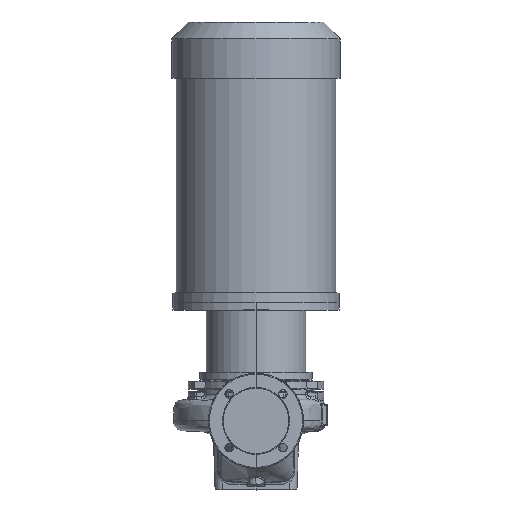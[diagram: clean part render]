
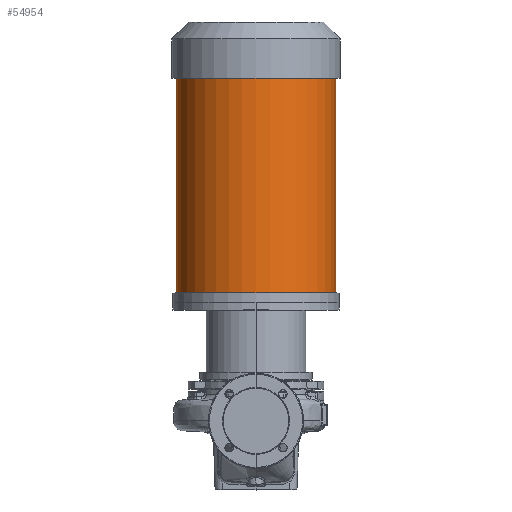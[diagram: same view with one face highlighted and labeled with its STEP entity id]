
A CAD part, top view. The second image highlights one B-rep face of the part: STEP entity #54954.
In plain terms, the highlighted cylindrical face has radius 167.5 mm (diameter 335 mm), a partial arc.
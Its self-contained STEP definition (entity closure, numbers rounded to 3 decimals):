
#1764 = EDGE_CURVE ( 'NONE', #26197, #57351, #59972, .T. ) ;
#2175 = DIRECTION ( 'NONE',  ( 0., -1., 0. ) ) ;
#2296 = AXIS2_PLACEMENT_3D ( 'NONE', #20108, #53327, #58950 ) ;
#2692 = ORIENTED_EDGE ( 'NONE', *, *, #66675, .F. ) ;
#4583 = DIRECTION ( 'NONE',  ( 0., -1., 0. ) ) ;
#6061 = LINE ( 'NONE', #27010, #67984 ) ;
#7804 = CARTESIAN_POINT ( 'NONE',  ( -167.5, 249.3, 0. ) ) ;
#8988 = ORIENTED_EDGE ( 'NONE', *, *, #53636, .T. ) ;
#9446 = CYLINDRICAL_SURFACE ( 'NONE', #37710, 167.5 ) ;
#12268 = DIRECTION ( 'NONE',  ( 0., -1., 0. ) ) ;
#20108 = CARTESIAN_POINT ( 'NONE',  ( 0., 269.3, 0. ) ) ;
#22574 = FACE_OUTER_BOUND ( 'NONE', #33327, .T. ) ;
#26197 = VERTEX_POINT ( 'NONE', #68970 ) ;
#27010 = CARTESIAN_POINT ( 'NONE',  ( 167.5, 249.3, 0. ) ) ;
#27196 = AXIS2_PLACEMENT_3D ( 'NONE', #41720, #2175, #41221 ) ;
#31269 = CARTESIAN_POINT ( 'NONE',  ( -167.5, 721.3, 0. ) ) ;
#33327 = EDGE_LOOP ( 'NONE', ( #2692, #67947, #8988, #38933 ) ) ;
#37710 = AXIS2_PLACEMENT_3D ( 'NONE', #67146, #12268, #51084 ) ;
#37723 = CARTESIAN_POINT ( 'NONE',  ( -167.5, 269.3, 0. ) ) ;
#38933 = ORIENTED_EDGE ( 'NONE', *, *, #1764, .F. ) ;
#39316 = LINE ( 'NONE', #7804, #50657 ) ;
#41221 = DIRECTION ( 'NONE',  ( -1., 0., 0. ) ) ;
#41720 = CARTESIAN_POINT ( 'NONE',  ( 0., 721.3, 0. ) ) ;
#47735 = VERTEX_POINT ( 'NONE', #31269 ) ;
#48937 = CARTESIAN_POINT ( 'NONE',  ( 167.5, 721.3, 0. ) ) ;
#50597 = VERTEX_POINT ( 'NONE', #48937 ) ;
#50657 = VECTOR ( 'NONE', #69491, 1000. ) ;
#51084 = DIRECTION ( 'NONE',  ( -1., 0., 0. ) ) ;
#53327 = DIRECTION ( 'NONE',  ( 0., -1., 0. ) ) ;
#53636 = EDGE_CURVE ( 'NONE', #47735, #57351, #39316, .T. ) ;
#54620 = CIRCLE ( 'NONE', #27196, 167.5 ) ;
#54954 = ADVANCED_FACE ( 'NONE', ( #22574 ), #9446, .T. ) ;
#57351 = VERTEX_POINT ( 'NONE', #37723 ) ;
#58950 = DIRECTION ( 'NONE',  ( -1., 0., 0. ) ) ;
#59972 = CIRCLE ( 'NONE', #2296, 167.5 ) ;
#61638 = EDGE_CURVE ( 'NONE', #50597, #47735, #54620, .T. ) ;
#66675 = EDGE_CURVE ( 'NONE', #50597, #26197, #6061, .T. ) ;
#67146 = CARTESIAN_POINT ( 'NONE',  ( 0., 249.3, 0. ) ) ;
#67947 = ORIENTED_EDGE ( 'NONE', *, *, #61638, .T. ) ;
#67984 = VECTOR ( 'NONE', #4583, 1000. ) ;
#68970 = CARTESIAN_POINT ( 'NONE',  ( 167.5, 269.3, 0. ) ) ;
#69491 = DIRECTION ( 'NONE',  ( 0., -1., 0. ) ) ;
